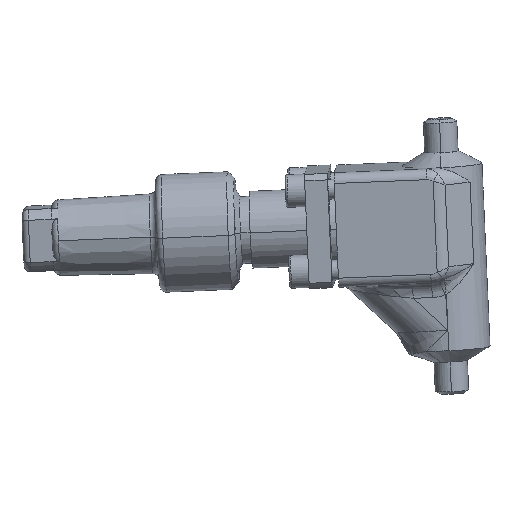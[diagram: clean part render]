
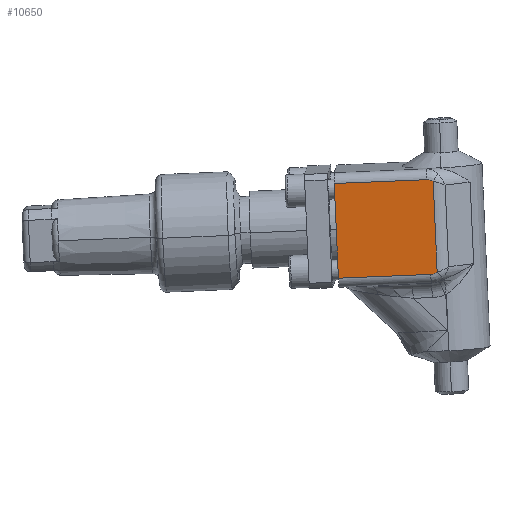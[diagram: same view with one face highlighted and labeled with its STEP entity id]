
A CAD part, left-side view. The second image highlights one B-rep face of the part: STEP entity #10650.
In plain terms, the highlighted planar face has unit normal (-0.996, 0.03, -0.083) as drawn and (-1, 0, 0) by its records, which use the part's own axes.
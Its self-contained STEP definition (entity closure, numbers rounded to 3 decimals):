
#91 =( BOUNDED_CURVE ( )  B_SPLINE_CURVE ( 3, ( #94, #95, #96, #97 ),
 .UNSPECIFIED., .F., .F. ) 
 B_SPLINE_CURVE_WITH_KNOTS ( ( 4, 4 ),
 ( 1.571, 2.356 ),
 .UNSPECIFIED. ) 
 CURVE ( )  GEOMETRIC_REPRESENTATION_ITEM ( )  RATIONAL_B_SPLINE_CURVE ( ( 1., 0.949, 0.949, 1. ) ) 
 REPRESENTATION_ITEM ( '' )  );
#94 = CARTESIAN_POINT ( 'NONE',  ( -17.5, 4.318, -32. ) ) ;
#95 = CARTESIAN_POINT ( 'NONE',  ( -17.5, 3.557, -32. ) ) ;
#96 = CARTESIAN_POINT ( 'NONE',  ( -17.5, 2.855, -31.794 ) ) ;
#97 = CARTESIAN_POINT ( 'NONE',  ( -17.5, 2.318, -31.414 ) ) ;
#433 = LINE ( 'NONE', #434, #435 ) ;
#434 = CARTESIAN_POINT ( 'NONE',  ( -17.5, 0.247, -32. ) ) ;
#435 = VECTOR ( 'NONE', #436, 1000. ) ;
#436 = DIRECTION ( 'NONE',  ( 0., -1., 0. ) ) ;
#1469 = EDGE_CURVE ( 'NONE', #6441, #11121, #12335, .T. ) ;
#1619 = CARTESIAN_POINT ( 'NONE',  ( -17.5, 4.318, -32. ) ) ;
#1794 = ORIENTED_EDGE ( 'NONE', *, *, #1469, .T. ) ;
#2921 = FACE_OUTER_BOUND ( 'NONE', #10617, .T. ) ;
#2922 = PLANE ( 'NONE',  #2923 ) ;
#2923 = AXIS2_PLACEMENT_3D ( 'NONE', #2924, #2926, #2927 ) ;
#2924 = CARTESIAN_POINT ( 'NONE',  ( -17.5, 32.5, -35. ) ) ;
#2926 = DIRECTION ( 'NONE',  ( -1., 0., 0. ) ) ;
#2927 = DIRECTION ( 'NONE',  ( 0., -1., 0. ) ) ;
#3665 = ORIENTED_EDGE ( 'NONE', *, *, #7657, .T. ) ;
#5970 = CARTESIAN_POINT ( 'NONE',  ( -17.5, 4.318, -3. ) ) ;
#6441 = VERTEX_POINT ( 'NONE', #8163 ) ;
#6657 = EDGE_CURVE ( 'NONE', #13953, #6441, #8260, .T. ) ;
#7055 = VERTEX_POINT ( 'NONE', #9801 ) ;
#7267 = EDGE_CURVE ( 'NONE', #11121, #7055, #9925, .T. ) ;
#7657 = EDGE_CURVE ( 'NONE', #10475, #7975, #433, .T. ) ;
#7975 = VERTEX_POINT ( 'NONE', #1619 ) ;
#8163 = CARTESIAN_POINT ( 'NONE',  ( -17.5, 2.318, -3.586 ) ) ;
#8260 = LINE ( 'NONE', #8261, #8262 ) ;
#8261 = CARTESIAN_POINT ( 'NONE',  ( -17.5, 2.318, -35. ) ) ;
#8262 = VECTOR ( 'NONE', #8263, 1000. ) ;
#8263 = DIRECTION ( 'NONE',  ( 0., 0., 1. ) ) ;
#9801 = CARTESIAN_POINT ( 'NONE',  ( -17.5, 32.5, -3. ) ) ;
#9925 = LINE ( 'NONE', #9926, #9927 ) ;
#9926 = CARTESIAN_POINT ( 'NONE',  ( -17.5, 32.5, -3. ) ) ;
#9927 = VECTOR ( 'NONE', #9928, 1000. ) ;
#9928 = DIRECTION ( 'NONE',  ( 0., 1., 0. ) ) ;
#9953 = CARTESIAN_POINT ( 'NONE',  ( -17.5, 2.318, -31.414 ) ) ;
#10378 = EDGE_CURVE ( 'NONE', #10475, #7055, #12234, .T. ) ;
#10418 = ORIENTED_EDGE ( 'NONE', *, *, #10378, .F. ) ;
#10475 = VERTEX_POINT ( 'NONE', #15246 ) ;
#10617 = EDGE_LOOP ( 'NONE', ( #3665, #11895, #10656, #1794, #10667, #10418 ) ) ;
#10650 = ADVANCED_FACE ( 'NONE', ( #2921 ), #2922, .T. ) ;
#10656 = ORIENTED_EDGE ( 'NONE', *, *, #6657, .T. ) ;
#10667 = ORIENTED_EDGE ( 'NONE', *, *, #7267, .T. ) ;
#11121 = VERTEX_POINT ( 'NONE', #5970 ) ;
#11895 = ORIENTED_EDGE ( 'NONE', *, *, #14134, .T. ) ;
#12234 = LINE ( 'NONE', #12235, #12236 ) ;
#12235 = CARTESIAN_POINT ( 'NONE',  ( -17.5, 32.5, -35. ) ) ;
#12236 = VECTOR ( 'NONE', #12237, 1000. ) ;
#12237 = DIRECTION ( 'NONE',  ( 0., 0., 1. ) ) ;
#12335 =( BOUNDED_CURVE ( )  B_SPLINE_CURVE ( 3, ( #12336, #12337, #12338, #12339 ),
 .UNSPECIFIED., .F., .F. ) 
 B_SPLINE_CURVE_WITH_KNOTS ( ( 4, 4 ),
 ( 0.785, 1.571 ),
 .UNSPECIFIED. ) 
 CURVE ( )  GEOMETRIC_REPRESENTATION_ITEM ( )  RATIONAL_B_SPLINE_CURVE ( ( 1., 0.949, 0.949, 1. ) ) 
 REPRESENTATION_ITEM ( '' )  );
#12336 = CARTESIAN_POINT ( 'NONE',  ( -17.5, 2.318, -3.586 ) ) ;
#12337 = CARTESIAN_POINT ( 'NONE',  ( -17.5, 2.855, -3.206 ) ) ;
#12338 = CARTESIAN_POINT ( 'NONE',  ( -17.5, 3.557, -3. ) ) ;
#12339 = CARTESIAN_POINT ( 'NONE',  ( -17.5, 4.318, -3. ) ) ;
#13953 = VERTEX_POINT ( 'NONE', #9953 ) ;
#14134 = EDGE_CURVE ( 'NONE', #7975, #13953, #91, .T. ) ;
#15246 = CARTESIAN_POINT ( 'NONE',  ( -17.5, 32.5, -32. ) ) ;
